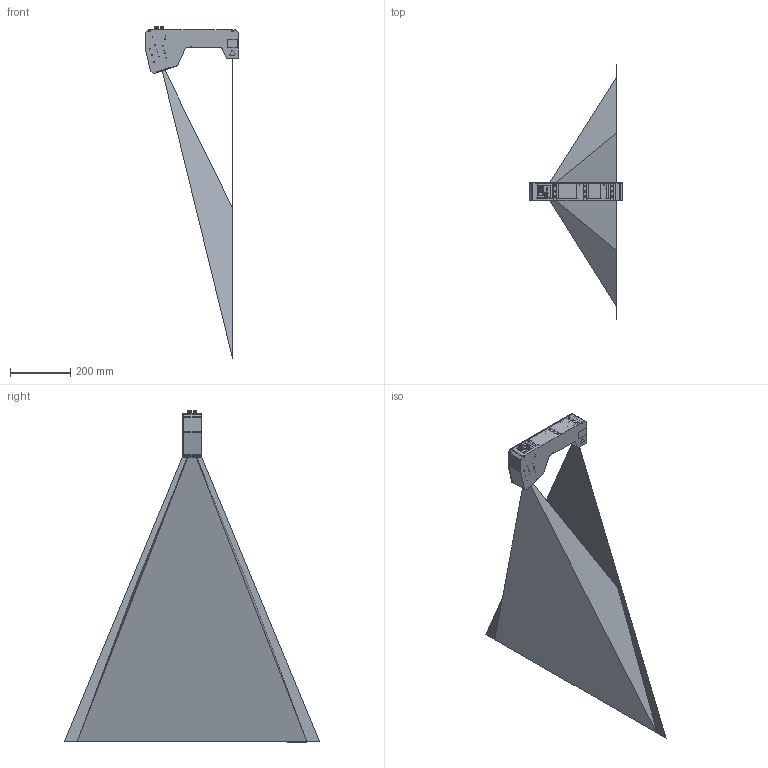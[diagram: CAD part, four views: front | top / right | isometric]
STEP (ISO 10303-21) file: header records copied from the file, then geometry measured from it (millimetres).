
FILE_DESCRIPTION(/* description */ ('C6-S7-4090-ECS-18-575-744-SX-1G-660-2M_Public'),/* implementation_level */ '2;1');
FILE_NAME(/* name */ '602345472_C6-S7-4090-ECS-18-575-744-SX-1G-660-2M_Public.iam.stp',/* time_stamp */ '2025-06-16T10:10:16+02:00',/* author */ ('SH'),/* organization */ ('Automation Technology GmbH'),/* preprocessor_version */ 'ST-DEVELOPER v20',/* originating_system */ 'Autodesk Inventor 2024',/* authorisation */ '');
FILE_SCHEMA (('AUTOMOTIVE_DESIGN { 1 0 10303 214 3 1 1 }'));
Products named in the file (20): 602345472; SACC-DSI-FS-8CON-L180_SCO SH_1553860-01; SACC-DSI-FS-8CON-L180_SCO SH_1553860_Stecker; SACC-DSI-FS-8CON-L180_SCO SH_1553860_Mutter; SACC-DSI-FS-8CON-L180_SCO SH_1553860_Kunststoffeinsatz; SACC-DSI-MS-17CON-M12 SCO SH_1437119-01; SACC-DSI-MS-17CON-M12 SCO SH_1437119_Stecker; SACC-DSI-MS-17CON-M12 SCO SH_1437119_Mutter; SACC-DSI-MS-17CON-M12 SCO SH_1437119_Pins; SACC-DSI-MS-17CON-M12 SCO SH_1437119_Kunststoffeinsatz; Screw GB/T 2672 M2,5 x 4; Screw GB/T 2672 M2,5 x 6; 1292.6001; 202209000-202; 602345473; 202202010-010; EO: 48-924; Glasscheibe2Zollx1; 202190016-009; C6-S7-4090-ECS-18-575-744-SX-1G-660-2M_Strahlengang
Assembly tree (41 placements, depth 3):
  602345472
    SACC-DSI-FS-8CON-L180_SCO SH_1553860-01
      SACC-DSI-FS-8CON-L180_SCO SH_1553860_Stecker
      SACC-DSI-FS-8CON-L180_SCO SH_1553860_Mutter
      SACC-DSI-FS-8CON-L180_SCO SH_1553860_Kunststoffeinsatz
    SACC-DSI-MS-17CON-M12 SCO SH_1437119-01
      SACC-DSI-MS-17CON-M12 SCO SH_1437119_Stecker
      SACC-DSI-MS-17CON-M12 SCO SH_1437119_Mutter
      SACC-DSI-MS-17CON-M12 SCO SH_1437119_Pins
      SACC-DSI-MS-17CON-M12 SCO SH_1437119_Kunststoffeinsatz
    Screw GB/T 2672 M2,5 x 4  x8
    Screw GB/T 2672 M2,5 x 6  x12
    1292.6001  x5
    202209000-202
    602345473
    202202010-010
    EO: 48-924
    Glasscheibe2Zollx1
    202190016-009
    C6-S7-4090-ECS-18-575-744-SX-1G-660-2M_Strahlengang
Bounding box: 310 x 846.94 x 1101.8 mm (x, y, z)
Volume: 23579130.5 mm3; surface area: 1596795.9 mm2
Topology: 56 solids, 57 shells, 2675 faces, 6455 edges, 4002 vertices
Faces by surface type: cylinder 1220, plane 1003, bspline 181, cone 122, torus 95, sphere 54
Full cylindrical faces by diameter (mm): 0.217 x1, 0.6 x25, 0.63 x34, 0.9 x8, 1 x10, 1.1 x17, 1.2 x17, 1.5 x5, 1.567 x10, 1.6 x5, 2 x15, 2.013 x40, 2.208 x20, 2.4 x20, 2.5 x20, 2.6 x17, 2.8 x8, 4 x3, 4.134 x6, 4.4 x3, 5 x20, 5.2 x12, 5.5 x8, 7.7 x1, 8.25 x2, 8.3 x1, 8.7 x1, 10.5 x1, 10.7 x3, 10.917 x2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
Entity records: 93817 total; most frequent: CARTESIAN_POINT 46632, DIRECTION 9315, ORIENTED_EDGE 9290, EDGE_CURVE 4647, AXIS2_PLACEMENT_3D 3437, VERTEX_POINT 3064, LINE 2441, VECTOR 2441
